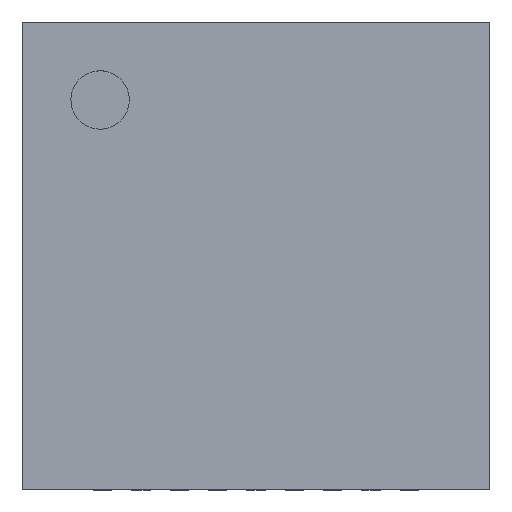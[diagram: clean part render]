
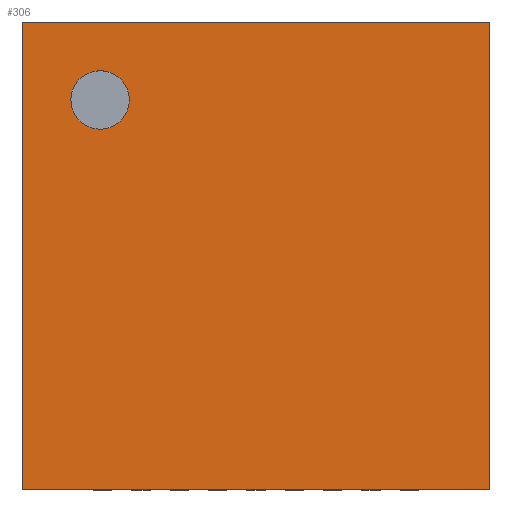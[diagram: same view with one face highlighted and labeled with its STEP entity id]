
A CAD part, top view. The second image highlights one B-rep face of the part: STEP entity #306.
In plain terms, the highlighted planar face has unit normal (0, 0, 1).
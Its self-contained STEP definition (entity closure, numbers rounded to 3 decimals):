
#242 = VERTEX_POINT('',#243);
#243 = CARTESIAN_POINT('',(0.,0.,0.9));
#258 = VERTEX_POINT('',#259);
#259 = CARTESIAN_POINT('',(0.,6.1,0.9));
#265 = EDGE_CURVE('',#242,#258,#266,.T.);
#266 = LINE('',#267,#268);
#267 = CARTESIAN_POINT('',(0.,0.,0.9));
#268 = VECTOR('',#269,1.);
#269 = DIRECTION('',(0.,1.,0.));
#288 = EDGE_CURVE('',#242,#289,#291,.T.);
#289 = VERTEX_POINT('',#290);
#290 = CARTESIAN_POINT('',(6.1,0.,0.9));
#291 = LINE('',#292,#293);
#292 = CARTESIAN_POINT('',(0.,0.,0.9));
#293 = VECTOR('',#294,1.);
#294 = DIRECTION('',(1.,0.,0.));
#306 = ADVANCED_FACE('',(#307,#325),#336,.T.);
#307 = FACE_BOUND('',#308,.T.);
#308 = EDGE_LOOP('',(#309,#310,#311,#319));
#309 = ORIENTED_EDGE('',*,*,#265,.F.);
#310 = ORIENTED_EDGE('',*,*,#288,.T.);
#311 = ORIENTED_EDGE('',*,*,#312,.T.);
#312 = EDGE_CURVE('',#289,#313,#315,.T.);
#313 = VERTEX_POINT('',#314);
#314 = CARTESIAN_POINT('',(6.1,6.1,0.9));
#315 = LINE('',#316,#317);
#316 = CARTESIAN_POINT('',(6.1,0.,0.9));
#317 = VECTOR('',#318,1.);
#318 = DIRECTION('',(0.,1.,0.));
#319 = ORIENTED_EDGE('',*,*,#320,.F.);
#320 = EDGE_CURVE('',#258,#313,#321,.T.);
#321 = LINE('',#322,#323);
#322 = CARTESIAN_POINT('',(0.,6.1,0.9));
#323 = VECTOR('',#324,1.);
#324 = DIRECTION('',(1.,0.,0.));
#325 = FACE_BOUND('',#326,.T.);
#326 = EDGE_LOOP('',(#327));
#327 = ORIENTED_EDGE('',*,*,#328,.F.);
#328 = EDGE_CURVE('',#329,#329,#331,.T.);
#329 = VERTEX_POINT('',#330);
#330 = CARTESIAN_POINT('',(1.398,5.083,0.9));
#331 = CIRCLE('',#332,0.381);
#332 = AXIS2_PLACEMENT_3D('',#333,#334,#335);
#333 = CARTESIAN_POINT('',(1.017,5.083,0.9));
#334 = DIRECTION('',(0.,0.,1.));
#335 = DIRECTION('',(1.,0.,0.));
#336 = PLANE('',#337);
#337 = AXIS2_PLACEMENT_3D('',#338,#339,#340);
#338 = CARTESIAN_POINT('',(0.,0.,0.9));
#339 = DIRECTION('',(0.,0.,1.));
#340 = DIRECTION('',(1.,0.,0.));
